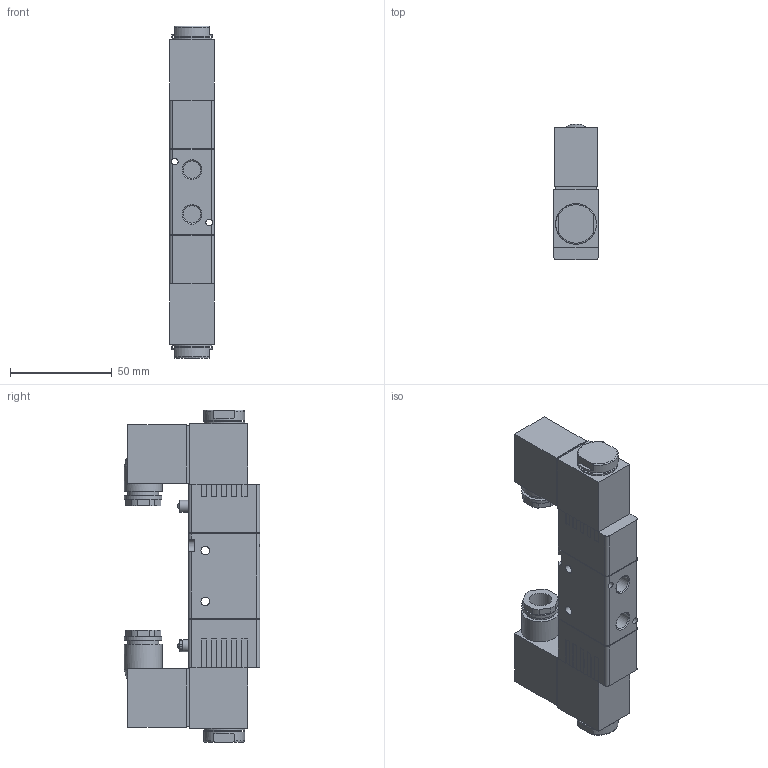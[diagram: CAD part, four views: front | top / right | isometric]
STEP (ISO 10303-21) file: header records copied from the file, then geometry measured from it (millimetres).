
FILE_DESCRIPTION(/* description */ ('STEP AP214'),/* implementation_level */ '2;1');
FILE_NAME(/* name */ '86-MV-3-18-320-Mxx.stp',/* time_stamp */ '2025-10-08T08:32:36+02:00',/* author */ ('Tschernatsch'),/* organization */ ('CADENAS'),/* preprocessor_version */ 'ST-DEVELOPER v20',/* originating_system */ 'Autodesk Inventor 2024',/* authorisation */ ' ');
FILE_SCHEMA (('AUTOMOTIVE_DESIGN { 1 0 10303 214 3 1 1 }'));
Length unit declared in the file: millimetre
Products named in the file (1): J3V220-06-DC24V
Bounding box: 22 x 66.7 x 163.4 mm (x, y, z)
Volume: 148792.5 mm3; surface area: 30453.3 mm2
Topology: 1 solids, 1 shells, 348 faces, 874 edges, 545 vertices
Faces by surface type: plane 260, cylinder 59, cone 25, torus 4
Full cylindrical faces by diameter (mm): 3.3 x2, 4.3 x2, 6 x2, 8.566 x3, 10.8 x2, 15.2 x4, 18.4 x2, 18.6 x2, 20 x4
Entity records: 10800 total; most frequent: CARTESIAN_POINT 1966, ORIENTED_EDGE 1748, DIRECTION 1719, EDGE_CURVE 874, LINE 691, VECTOR 691, VERTEX_POINT 545, AXIS2_PLACEMENT_3D 514
